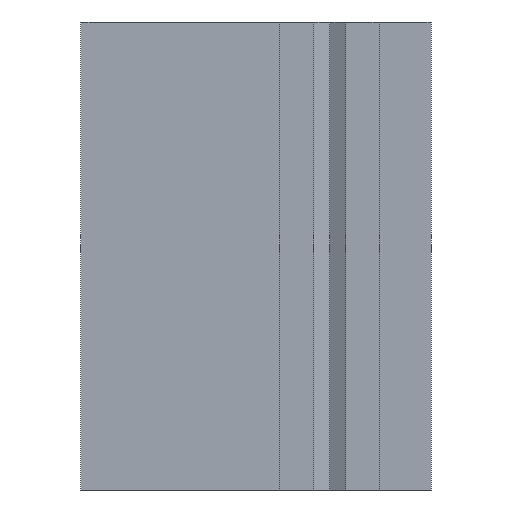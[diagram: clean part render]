
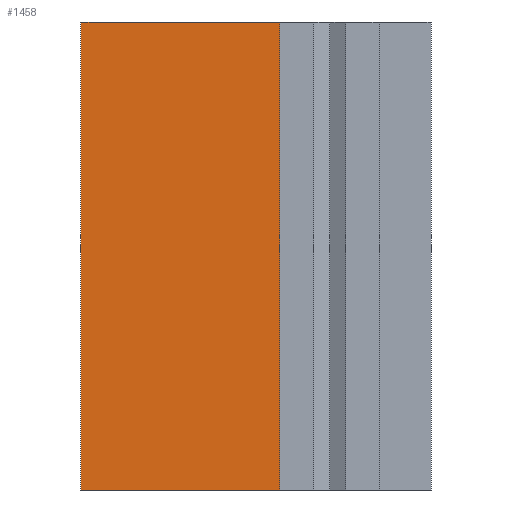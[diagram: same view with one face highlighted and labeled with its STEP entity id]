
A CAD part, front view. The second image highlights one B-rep face of the part: STEP entity #1458.
In plain terms, the highlighted planar face has unit normal (0, -1, 0).
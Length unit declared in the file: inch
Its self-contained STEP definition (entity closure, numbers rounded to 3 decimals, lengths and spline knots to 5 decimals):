
#1402=CARTESIAN_POINT('',(-0.1063,-0.5315,1.0));
#1403=VERTEX_POINT('',#1402);
#1410=CARTESIAN_POINT('',(-0.1063,-0.5315,0.0));
#1411=VERTEX_POINT('',#1410);
#1412=CARTESIAN_POINT('',(-0.1063,-0.5315,0.0));
#1413=DIRECTION('',(0.0,0.0,1.0));
#1414=VECTOR('',#1413,1.0);
#1415=LINE('',#1412,#1414);
#1416=EDGE_CURVE('',#1411,#1403,#1415,.T.);
#1428=CARTESIAN_POINT('',(-0.1063,-0.5315,0.0));
#1429=DIRECTION('',(0.0,-1.0,0.0));
#1430=DIRECTION('',(0.0,0.0,-1.0));
#1431=AXIS2_PLACEMENT_3D('',#1428,#1429,#1430);
#1432=PLANE('',#1431);
#1433=CARTESIAN_POINT('',(-0.5315,-0.5315,1.0));
#1434=VERTEX_POINT('',#1433);
#1435=CARTESIAN_POINT('',(-0.1063,-0.5315,1.0));
#1436=DIRECTION('',(-1.0,0.0,0.0));
#1437=VECTOR('',#1436,0.4252);
#1438=LINE('',#1435,#1437);
#1439=EDGE_CURVE('',#1403,#1434,#1438,.T.);
#1440=ORIENTED_EDGE('',*,*,#1439,.T.);
#1441=CARTESIAN_POINT('',(-0.5315,-0.5315,0.0));
#1442=VERTEX_POINT('',#1441);
#1443=CARTESIAN_POINT('',(-0.5315,-0.5315,0.0));
#1444=DIRECTION('',(0.0,0.0,1.0));
#1445=VECTOR('',#1444,1.0);
#1446=LINE('',#1443,#1445);
#1447=EDGE_CURVE('',#1442,#1434,#1446,.T.);
#1448=ORIENTED_EDGE('',*,*,#1447,.F.);
#1449=CARTESIAN_POINT('',(-0.5315,-0.5315,0.0));
#1450=DIRECTION('',(1.0,0.0,0.0));
#1451=VECTOR('',#1450,0.4252);
#1452=LINE('',#1449,#1451);
#1453=EDGE_CURVE('',#1442,#1411,#1452,.T.);
#1454=ORIENTED_EDGE('',*,*,#1453,.T.);
#1455=ORIENTED_EDGE('',*,*,#1416,.T.);
#1456=EDGE_LOOP('',(#1440,#1448,#1454,#1455));
#1457=FACE_OUTER_BOUND('',#1456,.T.);
#1458=ADVANCED_FACE('',(#1457),#1432,.T.);
